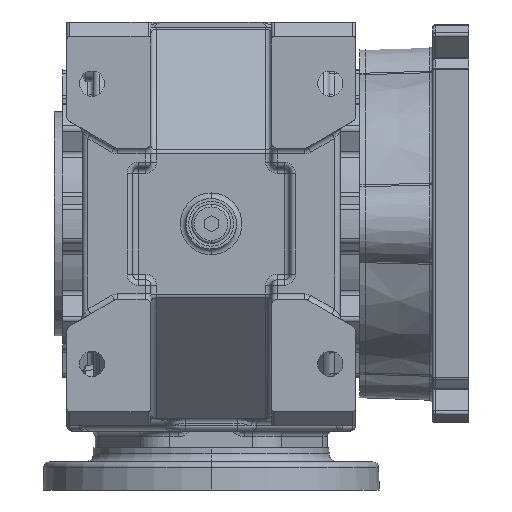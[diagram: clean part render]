
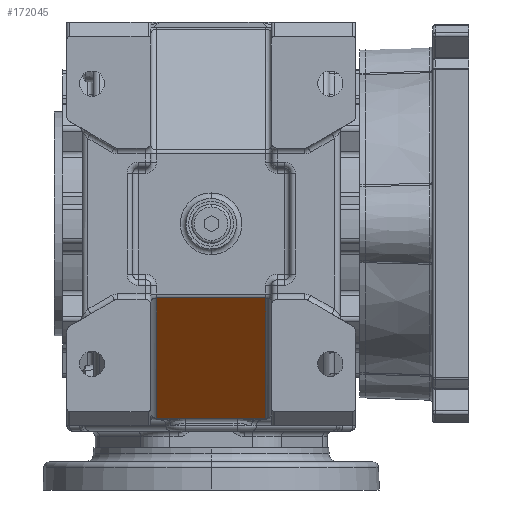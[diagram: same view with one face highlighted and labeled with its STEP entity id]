
A CAD part, front view. The second image highlights one B-rep face of the part: STEP entity #172045.
In plain terms, the highlighted planar face has unit normal (0, -0.707, -0.707).
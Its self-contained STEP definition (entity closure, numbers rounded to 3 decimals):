
#172045 = ADVANCED_FACE ( 'NONE', ( #187951 ), #187948, .F. ) ;
#172052 = EDGE_LOOP ( 'NONE', ( #172201, #172212, #172221, #172228 ) ) ;
#172201 = ORIENTED_EDGE ( 'NONE', *, *, #172204, .F. ) ;
#172204 = EDGE_CURVE ( 'NONE', #172208, #172210, #188478, .T. ) ;
#172208 = VERTEX_POINT ( 'NONE', #188622 ) ;
#172210 = VERTEX_POINT ( 'NONE', #188617 ) ;
#172212 = ORIENTED_EDGE ( 'NONE', *, *, #172215, .T. ) ;
#172215 = EDGE_CURVE ( 'NONE', #172208, #172218, #188611, .T. ) ;
#172218 = VERTEX_POINT ( 'NONE', #188594 ) ;
#172221 = ORIENTED_EDGE ( 'NONE', *, *, #172224, .T. ) ;
#172224 = EDGE_CURVE ( 'NONE', #172218, #172226, #188586, .T. ) ;
#172226 = VERTEX_POINT ( 'NONE', #188568 ) ;
#172228 = ORIENTED_EDGE ( 'NONE', *, *, #172230, .T. ) ;
#172230 = EDGE_CURVE ( 'NONE', #172226, #172210, #188560, .T. ) ;
#187938 = DIRECTION ( 'NONE',  ( 0., -0.707, 0.707 ) ) ;
#187940 = DIRECTION ( 'NONE',  ( 0., 0.707, 0.707 ) ) ;
#187942 = CARTESIAN_POINT ( 'NONE',  ( 34., -62.5, -25.888 ) ) ;
#187944 = AXIS2_PLACEMENT_3D ( 'NONE', #187942, #187940, #187938 ) ;
#187948 = PLANE ( 'NONE',  #187944 ) ;
#187951 = FACE_OUTER_BOUND ( 'NONE', #172052, .T. ) ;
#188474 = DIRECTION ( 'NONE',  ( -1., 0., 0. ) ) ;
#188476 = CARTESIAN_POINT ( 'NONE',  ( 34., -18.974, -69.414 ) ) ;
#188478 = LINE ( 'NONE', #188476, #188636 ) ;
#188556 = VECTOR ( 'NONE', #188695, 1000. ) ;
#188558 = CARTESIAN_POINT ( 'NONE',  ( -19.5, -62.5, -25.888 ) ) ;
#188560 = LINE ( 'NONE', #188558, #188556 ) ;
#188568 = CARTESIAN_POINT ( 'NONE',  ( -19.5, -61.914, -26.474 ) ) ;
#188581 = DIRECTION ( 'NONE',  ( -1., 0., 0. ) ) ;
#188582 = VECTOR ( 'NONE', #188581, 1000. ) ;
#188584 = CARTESIAN_POINT ( 'NONE',  ( 34., -61.914, -26.474 ) ) ;
#188586 = LINE ( 'NONE', #188584, #188582 ) ;
#188594 = CARTESIAN_POINT ( 'NONE',  ( 19.5, -61.914, -26.474 ) ) ;
#188606 = DIRECTION ( 'NONE',  ( 0., -0.707, 0.707 ) ) ;
#188608 = VECTOR ( 'NONE', #188606, 1000. ) ;
#188610 = CARTESIAN_POINT ( 'NONE',  ( 19.5, -62.5, -25.888 ) ) ;
#188611 = LINE ( 'NONE', #188610, #188608 ) ;
#188617 = CARTESIAN_POINT ( 'NONE',  ( -19.5, -18.974, -69.414 ) ) ;
#188622 = CARTESIAN_POINT ( 'NONE',  ( 19.5, -18.974, -69.414 ) ) ;
#188636 = VECTOR ( 'NONE', #188474, 1000. ) ;
#188695 = DIRECTION ( 'NONE',  ( 0., 0.707, -0.707 ) ) ;
